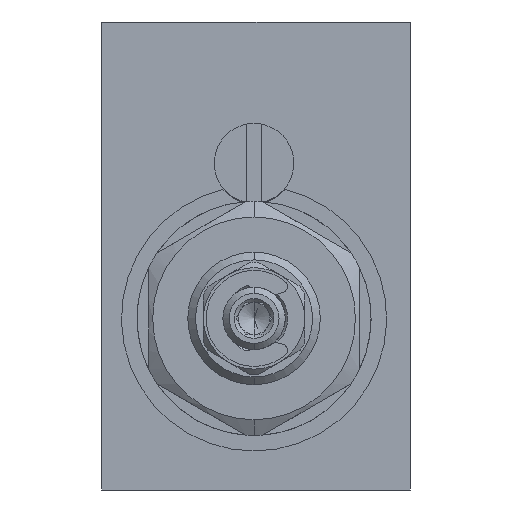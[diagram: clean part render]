
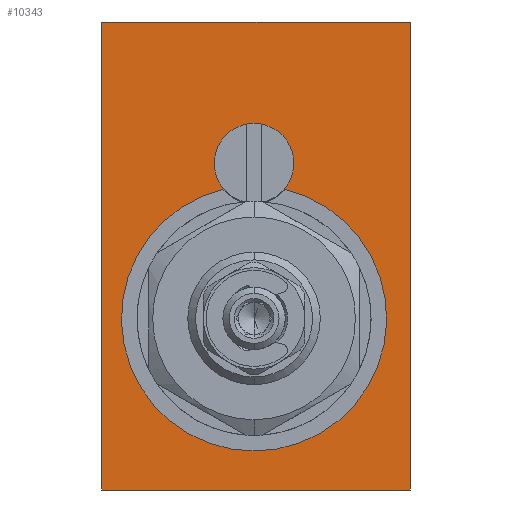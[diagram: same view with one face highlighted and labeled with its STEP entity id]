
A CAD part, left-side view. The second image highlights one B-rep face of the part: STEP entity #10343.
In plain terms, the highlighted planar face has unit normal (-1, 0, 0).
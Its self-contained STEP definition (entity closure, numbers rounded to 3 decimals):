
#29 = VERTEX_POINT ( 'NONE', #16455 ) ;
#110 = CARTESIAN_POINT ( 'NONE',  ( 0., -19.75, 30. ) ) ;
#1594 = CARTESIAN_POINT ( 'NONE',  ( 0., 0.25, 11.9 ) ) ;
#1977 = DIRECTION ( 'NONE',  ( 0., 0., 1. ) ) ;
#2148 = DIRECTION ( 'NONE',  ( -1., 0., 0. ) ) ;
#2423 = VERTEX_POINT ( 'NONE', #110 ) ;
#3156 = DIRECTION ( 'NONE',  ( 0., 0., 1. ) ) ;
#3470 = EDGE_CURVE ( 'NONE', #11390, #19347, #13380, .T. ) ;
#3563 = CARTESIAN_POINT ( 'NONE',  ( 0., -3.602, 8.558 ) ) ;
#3945 = AXIS2_PLACEMENT_3D ( 'NONE', #8061, #8020, #7985 ) ;
#3953 = EDGE_LOOP ( 'NONE', ( #7396, #12768, #16874 ) ) ;
#4148 = ORIENTED_EDGE ( 'NONE', *, *, #19684, .F. ) ;
#4213 = VERTEX_POINT ( 'NONE', #15574 ) ;
#4393 = EDGE_CURVE ( 'NONE', #19347, #4213, #4952, .T. ) ;
#4952 = CIRCLE ( 'NONE', #10569, 5.1 ) ;
#5306 = LINE ( 'NONE', #10051, #13092 ) ;
#6586 = CARTESIAN_POINT ( 'NONE',  ( 0., 19.75, -30. ) ) ;
#6647 = CARTESIAN_POINT ( 'NONE',  ( 0., 0.25, -8. ) ) ;
#7396 = ORIENTED_EDGE ( 'NONE', *, *, #4393, .F. ) ;
#7662 = ORIENTED_EDGE ( 'NONE', *, *, #15222, .F. ) ;
#7852 = CARTESIAN_POINT ( 'NONE',  ( 0., 19.75, 30. ) ) ;
#7985 = DIRECTION ( 'NONE',  ( 0., 0., 1. ) ) ;
#8020 = DIRECTION ( 'NONE',  ( -1., 0., 0. ) ) ;
#8061 = CARTESIAN_POINT ( 'NONE',  ( 0., 19.75, -30. ) ) ;
#8182 = PLANE ( 'NONE',  #3945 ) ;
#9831 = VERTEX_POINT ( 'NONE', #15829 ) ;
#9996 = AXIS2_PLACEMENT_3D ( 'NONE', #1594, #12385, #3156 ) ;
#10051 = CARTESIAN_POINT ( 'NONE',  ( 0., -19.75, 30. ) ) ;
#10124 = DIRECTION ( 'NONE',  ( 0., -1., 0. ) ) ;
#10343 = ADVANCED_FACE ( 'NONE', ( #10671, #10571 ), #8182, .T. ) ;
#10390 = EDGE_LOOP ( 'NONE', ( #16842, #4148, #7662, #16904 ) ) ;
#10569 = AXIS2_PLACEMENT_3D ( 'NONE', #10924, #10864, #10722 ) ;
#10571 = FACE_OUTER_BOUND ( 'NONE', #10390, .T. ) ;
#10671 = FACE_BOUND ( 'NONE', #3953, .T. ) ;
#10722 = DIRECTION ( 'NONE',  ( 0., 0., 1. ) ) ;
#10864 = DIRECTION ( 'NONE',  ( -1., 0., 0. ) ) ;
#10903 = CARTESIAN_POINT ( 'NONE',  ( 0., -19.75, -30. ) ) ;
#10924 = CARTESIAN_POINT ( 'NONE',  ( 0., 0.25, 11.9 ) ) ;
#11390 = VERTEX_POINT ( 'NONE', #13287 ) ;
#12385 = DIRECTION ( 'NONE',  ( -1., 0., 0. ) ) ;
#12502 = VECTOR ( 'NONE', #17887, 1000. ) ;
#12531 = DIRECTION ( 'NONE',  ( 0., 1., 0. ) ) ;
#12547 = LINE ( 'NONE', #16432, #12502 ) ;
#12768 = ORIENTED_EDGE ( 'NONE', *, *, #3470, .F. ) ;
#13037 = AXIS2_PLACEMENT_3D ( 'NONE', #6647, #2148, #1977 ) ;
#13092 = VECTOR ( 'NONE', #10124, 1000. ) ;
#13287 = CARTESIAN_POINT ( 'NONE',  ( 0., 4.102, 8.558 ) ) ;
#13380 = CIRCLE ( 'NONE', #13037, 17. ) ;
#14250 = VECTOR ( 'NONE', #12531, 1000. ) ;
#14354 = LINE ( 'NONE', #10903, #14250 ) ;
#14506 = CIRCLE ( 'NONE', #9996, 5.1 ) ;
#14979 = VERTEX_POINT ( 'NONE', #6586 ) ;
#15222 = EDGE_CURVE ( 'NONE', #29, #2423, #5306, .T. ) ;
#15574 = CARTESIAN_POINT ( 'NONE',  ( 0., 0.25, 17. ) ) ;
#15829 = CARTESIAN_POINT ( 'NONE',  ( 0., -19.75, -30. ) ) ;
#16432 = CARTESIAN_POINT ( 'NONE',  ( 0., -19.75, 30. ) ) ;
#16455 = CARTESIAN_POINT ( 'NONE',  ( 0., 19.75, 30. ) ) ;
#16652 = VECTOR ( 'NONE', #18583, 1000. ) ;
#16694 = LINE ( 'NONE', #7852, #16652 ) ;
#16842 = ORIENTED_EDGE ( 'NONE', *, *, #19156, .F. ) ;
#16874 = ORIENTED_EDGE ( 'NONE', *, *, #19020, .F. ) ;
#16904 = ORIENTED_EDGE ( 'NONE', *, *, #18252, .F. ) ;
#17887 = DIRECTION ( 'NONE',  ( 0., 0., -1. ) ) ;
#18252 = EDGE_CURVE ( 'NONE', #14979, #29, #16694, .T. ) ;
#18583 = DIRECTION ( 'NONE',  ( 0., 0., 1. ) ) ;
#19020 = EDGE_CURVE ( 'NONE', #4213, #11390, #14506, .T. ) ;
#19156 = EDGE_CURVE ( 'NONE', #9831, #14979, #14354, .T. ) ;
#19347 = VERTEX_POINT ( 'NONE', #3563 ) ;
#19684 = EDGE_CURVE ( 'NONE', #2423, #9831, #12547, .T. ) ;
